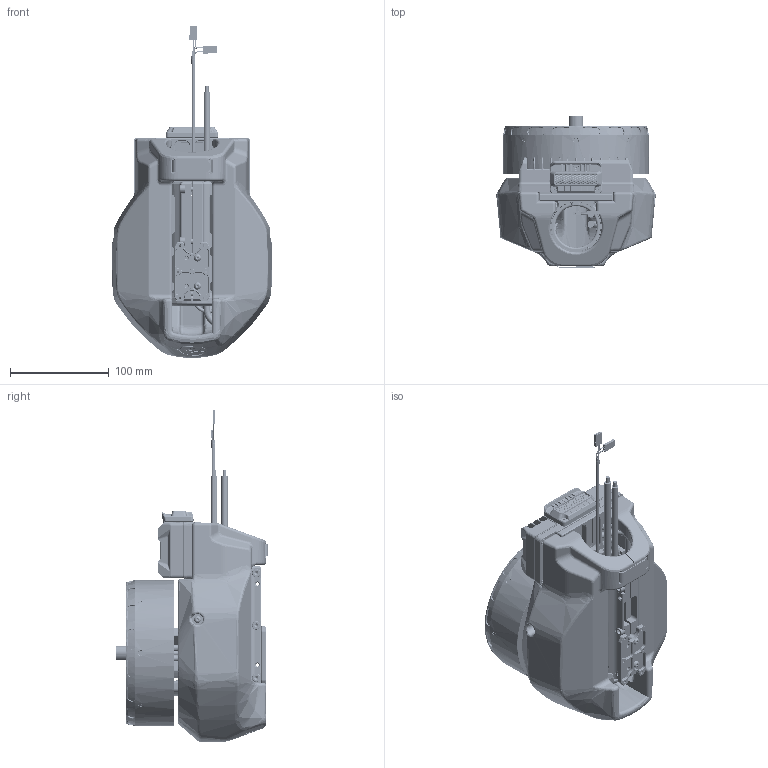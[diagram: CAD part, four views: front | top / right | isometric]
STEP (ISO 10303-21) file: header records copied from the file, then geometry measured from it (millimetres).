
FILE_DESCRIPTION (( 'STEP AP203' ), '1' );
FILE_NAME ('CM-X13-13825-45KV&60KV-D50-CW&CCW.STEP', '2024-01-25T12:05:59', ( '' ), ( '' ), 'SwSTEP 2.0', 'SolidWorks 2021', '' );
FILE_SCHEMA (( 'CONFIG_CONTROL_DESIGN' ));
Products named in the file (1): CM-X13-13825-45KV&60KV-D50-CW&CCW
Bounding box: 161.98 x 153.8 x 336.07 mm (x, y, z)
Volume: 1956129.5 mm3; surface area: 385685.4 mm2
Topology: 75 solids, 97 shells, 12699 faces, 31768 edges, 19306 vertices
Faces by surface type: plane 6054, cylinder 3195, bspline 1948, cone 956, torus 467, sphere 79
Entity records: 497289 total; most frequent: CARTESIAN_POINT 220006, ORIENTED_EDGE 63122, DIRECTION 50169, EDGE_CURVE 31561, VERTEX_POINT 19303, AXIS2_PLACEMENT_3D 17227, VECTOR 15715, LINE 15715
